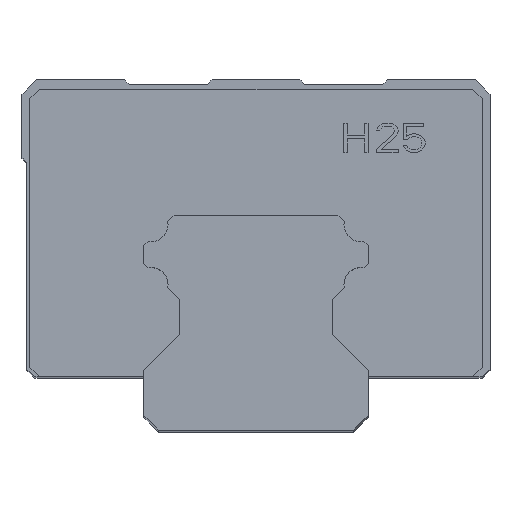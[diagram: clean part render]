
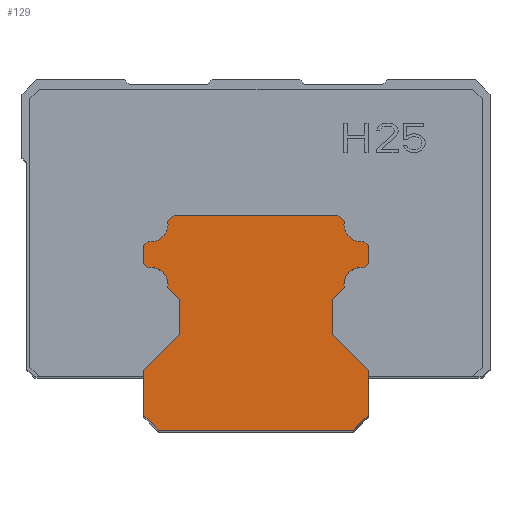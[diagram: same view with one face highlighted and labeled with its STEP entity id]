
A CAD part, top view. The second image highlights one B-rep face of the part: STEP entity #129.
In plain terms, the highlighted planar face has unit normal (0, 0, 1).
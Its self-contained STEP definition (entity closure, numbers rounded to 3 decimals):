
#129=ADVANCED_FACE('',(#467),#303,.T.);
#303=PLANE('',#3574);
#467=FACE_OUTER_BOUND('',#635,.T.);
#635=EDGE_LOOP('',(#871,#872,#873,#874,#875,#876,#877,#878,#879,#880,#881,
#882,#883,#884,#885,#886,#887,#888,#889,#890,#891,#892,#893,#894));
#823=CIRCLE('',#3569,1.75);
#824=CIRCLE('',#3571,1.75);
#825=CIRCLE('',#3572,1.75);
#826=CIRCLE('',#3573,1.75);
#871=ORIENTED_EDGE('',*,*,#2174,.F.);
#872=ORIENTED_EDGE('',*,*,#2175,.F.);
#873=ORIENTED_EDGE('',*,*,#2176,.F.);
#874=ORIENTED_EDGE('',*,*,#2177,.F.);
#875=ORIENTED_EDGE('',*,*,#2178,.F.);
#876=ORIENTED_EDGE('',*,*,#2179,.F.);
#877=ORIENTED_EDGE('',*,*,#2180,.F.);
#878=ORIENTED_EDGE('',*,*,#2181,.F.);
#879=ORIENTED_EDGE('',*,*,#2182,.F.);
#880=ORIENTED_EDGE('',*,*,#2183,.F.);
#881=ORIENTED_EDGE('',*,*,#2184,.F.);
#882=ORIENTED_EDGE('',*,*,#2185,.F.);
#883=ORIENTED_EDGE('',*,*,#2186,.F.);
#884=ORIENTED_EDGE('',*,*,#2187,.F.);
#885=ORIENTED_EDGE('',*,*,#2188,.F.);
#886=ORIENTED_EDGE('',*,*,#2189,.F.);
#887=ORIENTED_EDGE('',*,*,#2190,.F.);
#888=ORIENTED_EDGE('',*,*,#2191,.F.);
#889=ORIENTED_EDGE('',*,*,#2192,.F.);
#890=ORIENTED_EDGE('',*,*,#2173,.F.);
#891=ORIENTED_EDGE('',*,*,#2193,.F.);
#892=ORIENTED_EDGE('',*,*,#2194,.F.);
#893=ORIENTED_EDGE('',*,*,#2195,.F.);
#894=ORIENTED_EDGE('',*,*,#2196,.F.);
#1843=VERTEX_POINT('',#4678);
#1844=VERTEX_POINT('',#4680);
#1845=VERTEX_POINT('',#4684);
#1846=VERTEX_POINT('',#4685);
#1847=VERTEX_POINT('',#4687);
#1848=VERTEX_POINT('',#4689);
#1849=VERTEX_POINT('',#4691);
#1850=VERTEX_POINT('',#4693);
#1851=VERTEX_POINT('',#4695);
#1852=VERTEX_POINT('',#4697);
#1853=VERTEX_POINT('',#4699);
#1854=VERTEX_POINT('',#4701);
#1855=VERTEX_POINT('',#4703);
#1856=VERTEX_POINT('',#4705);
#1857=VERTEX_POINT('',#4707);
#1858=VERTEX_POINT('',#4709);
#1859=VERTEX_POINT('',#4711);
#1860=VERTEX_POINT('',#4713);
#1861=VERTEX_POINT('',#4715);
#1862=VERTEX_POINT('',#4717);
#1863=VERTEX_POINT('',#4719);
#1864=VERTEX_POINT('',#4722);
#1865=VERTEX_POINT('',#4724);
#1866=VERTEX_POINT('',#4726);
#2173=EDGE_CURVE('',#1844,#1843,#823,.T.);
#2174=EDGE_CURVE('',#1845,#1846,#2657,.T.);
#2175=EDGE_CURVE('',#1847,#1845,#2658,.T.);
#2176=EDGE_CURVE('',#1848,#1847,#2659,.T.);
#2177=EDGE_CURVE('',#1849,#1848,#824,.T.);
#2178=EDGE_CURVE('',#1850,#1849,#2660,.T.);
#2179=EDGE_CURVE('',#1851,#1850,#2661,.T.);
#2180=EDGE_CURVE('',#1852,#1851,#2662,.T.);
#2181=EDGE_CURVE('',#1853,#1852,#825,.T.);
#2182=EDGE_CURVE('',#1854,#1853,#2663,.T.);
#2183=EDGE_CURVE('',#1855,#1854,#2664,.T.);
#2184=EDGE_CURVE('',#1856,#1855,#2665,.T.);
#2185=EDGE_CURVE('',#1857,#1856,#2666,.T.);
#2186=EDGE_CURVE('',#1858,#1857,#2667,.T.);
#2187=EDGE_CURVE('',#1859,#1858,#2668,.T.);
#2188=EDGE_CURVE('',#1860,#1859,#2669,.T.);
#2189=EDGE_CURVE('',#1861,#1860,#2670,.T.);
#2190=EDGE_CURVE('',#1862,#1861,#2671,.T.);
#2191=EDGE_CURVE('',#1863,#1862,#2672,.T.);
#2192=EDGE_CURVE('',#1843,#1863,#2673,.T.);
#2193=EDGE_CURVE('',#1864,#1844,#2674,.T.);
#2194=EDGE_CURVE('',#1865,#1864,#2675,.T.);
#2195=EDGE_CURVE('',#1866,#1865,#2676,.T.);
#2196=EDGE_CURVE('',#1846,#1866,#826,.T.);
#2657=LINE('',#4683,#3121);
#2658=LINE('',#4686,#3122);
#2659=LINE('',#4688,#3123);
#2660=LINE('',#4692,#3124);
#2661=LINE('',#4694,#3125);
#2662=LINE('',#4696,#3126);
#2663=LINE('',#4700,#3127);
#2664=LINE('',#4702,#3128);
#2665=LINE('',#4704,#3129);
#2666=LINE('',#4706,#3130);
#2667=LINE('',#4708,#3131);
#2668=LINE('',#4710,#3132);
#2669=LINE('',#4712,#3133);
#2670=LINE('',#4714,#3134);
#2671=LINE('',#4716,#3135);
#2672=LINE('',#4718,#3136);
#2673=LINE('',#4720,#3137);
#2674=LINE('',#4721,#3138);
#2675=LINE('',#4723,#3139);
#2676=LINE('',#4725,#3140);
#3121=VECTOR('',#3801,1.);
#3122=VECTOR('',#3802,1.);
#3123=VECTOR('',#3803,1.);
#3124=VECTOR('',#3806,1.);
#3125=VECTOR('',#3807,1.);
#3126=VECTOR('',#3808,1.);
#3127=VECTOR('',#3811,1.);
#3128=VECTOR('',#3812,1.);
#3129=VECTOR('',#3813,1.);
#3130=VECTOR('',#3814,1.);
#3131=VECTOR('',#3815,1.);
#3132=VECTOR('',#3816,1.);
#3133=VECTOR('',#3817,1.);
#3134=VECTOR('',#3818,1.);
#3135=VECTOR('',#3819,1.);
#3136=VECTOR('',#3820,1.);
#3137=VECTOR('',#3821,1.);
#3138=VECTOR('',#3822,1.);
#3139=VECTOR('',#3823,1.);
#3140=VECTOR('',#3824,1.);
#3569=AXIS2_PLACEMENT_3D('',#4681,#3797,#3798);
#3571=AXIS2_PLACEMENT_3D('',#4690,#3804,#3805);
#3572=AXIS2_PLACEMENT_3D('',#4698,#3809,#3810);
#3573=AXIS2_PLACEMENT_3D('',#4727,#3825,#3826);
#3574=AXIS2_PLACEMENT_3D('',#4728,#3827,#3828);
#3797=DIRECTION('',(0.,0.,1.));
#3798=DIRECTION('',(0.178,0.984,0.));
#3801=DIRECTION('',(0.707,-0.707,0.));
#3802=DIRECTION('',(1.,0.,0.));
#3803=DIRECTION('',(0.707,0.707,0.));
#3804=DIRECTION('',(0.,0.,1.));
#3805=DIRECTION('',(1.,0.,0.));
#3806=DIRECTION('',(0.707,0.707,0.));
#3807=DIRECTION('',(0.,1.,0.));
#3808=DIRECTION('',(-0.707,0.707,0.));
#3809=DIRECTION('',(0.,0.,1.));
#3810=DIRECTION('',(1.,0.,0.));
#3811=DIRECTION('',(-0.707,0.707,0.));
#3812=DIRECTION('',(0.,1.,0.));
#3813=DIRECTION('',(0.707,0.707,0.));
#3814=DIRECTION('',(0.,1.,0.));
#3815=DIRECTION('',(-0.707,0.707,0.));
#3816=DIRECTION('',(-1.,0.,0.));
#3817=DIRECTION('',(-0.707,-0.707,0.));
#3818=DIRECTION('',(0.,-1.,0.));
#3819=DIRECTION('',(0.707,-0.707,0.));
#3820=DIRECTION('',(0.,-1.,0.));
#3821=DIRECTION('',(-0.707,-0.707,0.));
#3822=DIRECTION('',(-0.707,-0.707,0.));
#3823=DIRECTION('',(0.,-1.,0.));
#3824=DIRECTION('',(0.707,-0.707,0.));
#3825=DIRECTION('',(0.,0.,1.));
#3826=DIRECTION('',(-1.,0.,0.));
#3827=DIRECTION('',(0.,0.,1.));
#3828=DIRECTION('',(-1.,0.,0.));
#4678=CARTESIAN_POINT('',(9.045,-7.375,31.));
#4680=CARTESIAN_POINT('',(11.079,-5.341,31.));
#4681=CARTESIAN_POINT('',(10.767,-7.063,31.));
#4683=CARTESIAN_POINT('',(8.409,0.,31.));
#4684=CARTESIAN_POINT('',(8.409,0.,31.));
#4685=CARTESIAN_POINT('',(9.047,-0.638,31.));
#4686=CARTESIAN_POINT('',(-8.409,0.,31.));
#4687=CARTESIAN_POINT('',(-8.409,0.,31.));
#4688=CARTESIAN_POINT('',(-9.047,-0.638,31.));
#4689=CARTESIAN_POINT('',(-9.047,-0.638,31.));
#4690=CARTESIAN_POINT('',(-10.772,-0.932,31.));
#4691=CARTESIAN_POINT('',(-11.066,-2.657,31.));
#4692=CARTESIAN_POINT('',(-11.5,-3.091,31.));
#4693=CARTESIAN_POINT('',(-11.5,-3.091,31.));
#4694=CARTESIAN_POINT('',(-11.5,-4.92,31.));
#4695=CARTESIAN_POINT('',(-11.5,-4.92,31.));
#4696=CARTESIAN_POINT('',(-11.079,-5.341,31.));
#4697=CARTESIAN_POINT('',(-11.079,-5.341,31.));
#4698=CARTESIAN_POINT('',(-10.767,-7.063,31.));
#4699=CARTESIAN_POINT('',(-9.045,-7.375,31.));
#4700=CARTESIAN_POINT('',(-7.8,-8.62,31.));
#4701=CARTESIAN_POINT('',(-7.8,-8.62,31.));
#4702=CARTESIAN_POINT('',(-7.8,-12.201,31.));
#4703=CARTESIAN_POINT('',(-7.8,-12.201,31.));
#4704=CARTESIAN_POINT('',(-11.5,-15.901,31.));
#4705=CARTESIAN_POINT('',(-11.5,-15.901,31.));
#4706=CARTESIAN_POINT('',(-11.5,-20.5,31.));
#4707=CARTESIAN_POINT('',(-11.5,-20.5,31.));
#4708=CARTESIAN_POINT('',(-10.,-22.,31.));
#4709=CARTESIAN_POINT('',(-10.,-22.,31.));
#4710=CARTESIAN_POINT('',(10.,-22.,31.));
#4711=CARTESIAN_POINT('',(10.,-22.,31.));
#4712=CARTESIAN_POINT('',(11.5,-20.5,31.));
#4713=CARTESIAN_POINT('',(11.5,-20.5,31.));
#4714=CARTESIAN_POINT('',(11.5,-15.901,31.));
#4715=CARTESIAN_POINT('',(11.5,-15.901,31.));
#4716=CARTESIAN_POINT('',(7.8,-12.201,31.));
#4717=CARTESIAN_POINT('',(7.8,-12.201,31.));
#4718=CARTESIAN_POINT('',(7.8,-8.62,31.));
#4719=CARTESIAN_POINT('',(7.8,-8.62,31.));
#4720=CARTESIAN_POINT('',(9.045,-7.375,31.));
#4721=CARTESIAN_POINT('',(11.5,-4.92,31.));
#4722=CARTESIAN_POINT('',(11.5,-4.92,31.));
#4723=CARTESIAN_POINT('',(11.5,-3.091,31.));
#4724=CARTESIAN_POINT('',(11.5,-3.091,31.));
#4725=CARTESIAN_POINT('',(11.066,-2.657,31.));
#4726=CARTESIAN_POINT('',(11.066,-2.657,31.));
#4727=CARTESIAN_POINT('',(10.772,-0.932,31.));
#4728=CARTESIAN_POINT('',(-12.65,-23.1,31.));
